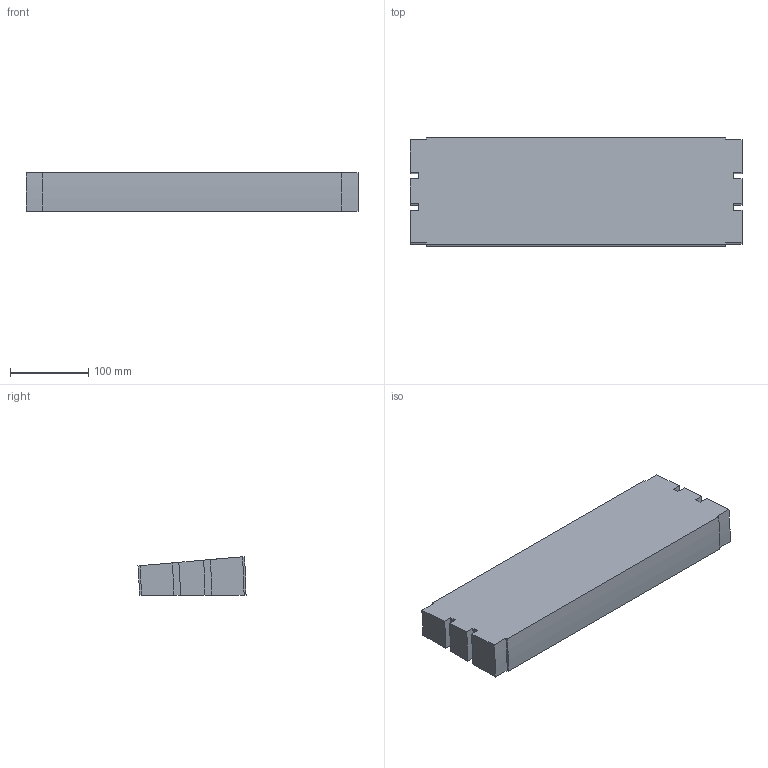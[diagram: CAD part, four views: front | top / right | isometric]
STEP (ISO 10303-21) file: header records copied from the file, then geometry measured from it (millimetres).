
FILE_DESCRIPTION (( 'STEP AP214' ), '1' );
FILE_NAME ('02.150V05.420.N FS-350-MTC-150 Bocht verticaal 5°.STEP', '2013-03-29T12:32:02', ( 'Gebruiker' ), ( '' ), 'SwSTEP 2.0', 'SolidWorks 2012', '' );
FILE_SCHEMA (( 'AUTOMOTIVE_DESIGN' ));
Length unit declared in the file: millimetre
Products named in the file (1): 02.150V05.420.N FS-350-MTC-150 Bocht verticaal 5°
Bounding box: 423 x 137.64 x 49.5 mm (x, y, z)
Volume: 2484650.7 mm3; surface area: 166509.7 mm2
Topology: 1 solids, 1 shells, 30 faces, 84 edges, 56 vertices
Faces by surface type: plane 16, cylinder 14
Entity records: 1010 total; most frequent: DIRECTION 174, CARTESIAN_POINT 171, ORIENTED_EDGE 168, EDGE_CURVE 84, AXIS2_PLACEMENT_3D 59, VERTEX_POINT 56, LINE 56, VECTOR 56
